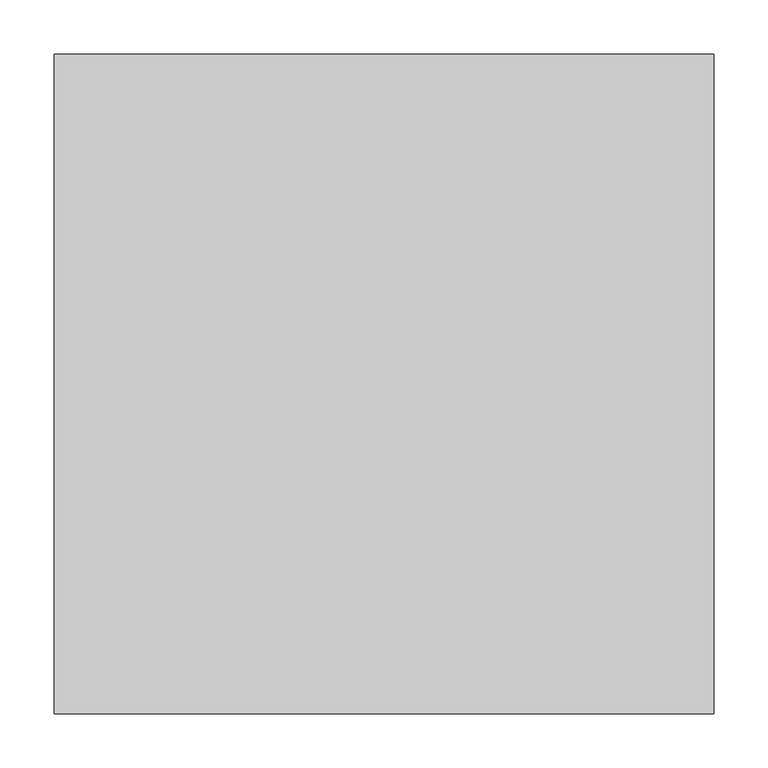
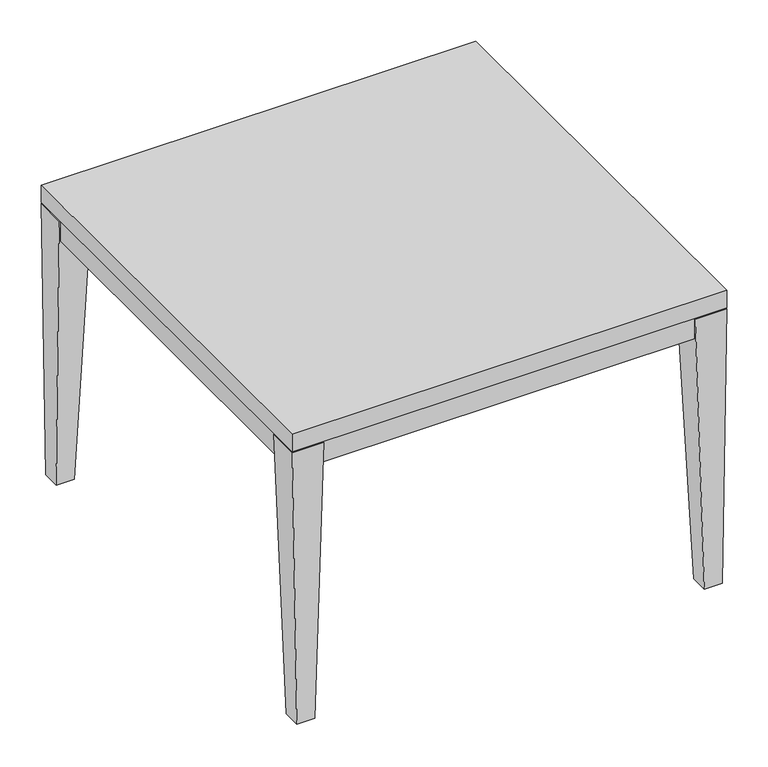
"""IFC4 building model written with IfcOpenShell, lengths in millimetres: furniture geometry, Coalesse_AM_Table_Ocassional_Passerelle : 24D x 24W x 17H."""

from ifc_helpers import new_model, si_unit, origin, place, context, project, spatial, faceted_brep, source, transform, mapped, element, save


def furniture_f0c5a1ee(model_context):
    return source(origin(), model_context, "Body", "Brep", [
        faceted_brep([(609.6, -609.6, 431.8), (609.6, -609.6, 406.4000242), (609.6, 0.0, 406.4000242), (609.6, 0.0, 431.8), (0.0, -609.6, 431.8), (0.0, 0.0, 431.8), (0.0, 0.0, 406.4000242), (0.0, -609.6, 406.4000242), (44.4501938, -44.4499758, 406.4000242), (1.5876938, -44.4499758, 406.4000242), (1.5876938, -565.1500242, 406.4000242), (44.4501938, -565.1500242, 406.4000242), (44.4501938, -608.0125, 406.4000242), (565.1498062, -608.0125, 406.4000242), (565.1498062, -565.1500242, 406.4000242), (608.0123062, -565.1500242, 406.4000242), (608.0123062, -44.4499758, 406.4000242), (565.1498062, -44.4499758, 406.4000242), (565.1498062, -1.5874758, 406.4000242), (44.4501938, -1.5874758, 406.4000242), (44.4501938, -44.4499758, 374.65), (44.4501938, -1.5874758, 374.65), (565.1498062, -1.5874758, 374.65), (565.1498062, -44.4499758, 374.65), (608.0123062, -44.4499758, 374.65), (608.0123062, -565.1500242, 374.65), (565.1498062, -565.1500242, 374.65), (565.1498062, -608.0125, 374.65), (44.4501938, -608.0125, 374.65), (44.4501938, -565.1500242, 374.65), (1.5876938, -565.1500242, 374.65), (1.5876938, -44.4499758, 374.65)], [[[0, 1, 2, 3]], [[4, 5, 6, 7]], [[1, 0, 4, 7]], [[2, 1, 7, 6], [8, 9, 10, 11, 12, 13, 14, 15, 16, 17, 18, 19]], [[3, 2, 6, 5]], [[0, 3, 5, 4]], [[20, 21, 22, 23, 24, 25, 26, 27, 28, 29, 30, 31]], [[20, 31, 9, 8]], [[31, 30, 10, 9]], [[30, 29, 11, 10]], [[29, 28, 12, 11]], [[28, 27, 13, 12]], [[27, 26, 14, 13]], [[26, 25, 15, 14]], [[25, 24, 16, 15]], [[24, 23, 17, 16]], [[23, 22, 18, 17]], [[22, 21, 19, 18]], [[21, 20, 8, 19]]]),
        faceted_brep([(603.2498062, -584.2, 0.0), (603.2498062, -609.6, 0.0), (577.8501938, -609.6, 0.0), (577.8501938, -584.2, 0.0), (609.6, -565.1500242, 404.8125121), (565.1498062, -565.1500242, 404.8125121), (565.1498062, -609.6, 404.8125121), (609.6, -609.6, 404.8125121)], [[[0, 1, 2, 3]], [[4, 5, 6, 7]], [[4, 7, 1, 0]], [[7, 6, 2, 1]], [[6, 5, 3, 2]], [[5, 4, 0, 3]]]),
        faceted_brep([(6.3501938, -584.2, 0.0), (31.7498062, -584.2, 0.0), (31.7498062, -609.6, 0.0), (6.3501938, -609.6, 0.0), (0.0, -565.1500242, 404.8125121), (0.0, -609.6, 404.8125121), (44.4501938, -609.6, 404.8125121), (44.4501938, -565.1500242, 404.8125121)], [[[0, 1, 2, 3]], [[4, 5, 6, 7]], [[4, 7, 1, 0]], [[7, 6, 2, 1]], [[6, 5, 3, 2]], [[5, 4, 0, 3]]]),
        faceted_brep([(603.2498062, -25.3999758, 0.0), (577.8501938, -25.3999758, 0.0), (577.8501938, 0.0, 0.0), (603.2498062, 0.0, 0.0), (609.6, -44.4499758, 404.8125121), (609.6, 0.0, 404.8125121), (565.1498062, 0.0, 404.8125121), (565.1498062, -44.4499758, 404.8125121)], [[[0, 1, 2, 3]], [[4, 5, 6, 7]], [[4, 7, 1, 0]], [[7, 6, 2, 1]], [[6, 5, 3, 2]], [[5, 4, 0, 3]]]),
        faceted_brep([(6.3501938, -25.3999758, 0.0), (6.3501938, 0.0, 0.0), (31.7498062, 0.0, 0.0), (31.7498062, -25.3999758, 0.0), (0.0, -44.4499758, 404.8125121), (44.4501938, -44.4499758, 404.8125121), (44.4501938, 0.0, 404.8125121), (0.0, 0.0, 404.8125121)], [[[0, 1, 2, 3]], [[4, 5, 6, 7]], [[4, 7, 1, 0]], [[7, 6, 2, 1]], [[6, 5, 3, 2]], [[5, 4, 0, 3]]]),
    ])


if __name__ == "__main__":
    model = new_model("IFC4")
    model_context = context("Model", 3, world=origin())
    ifc_project = project(units=[si_unit("LENGTHUNIT", "METRE", prefix="MILLI")], contexts=[model_context])
    site = spatial("IfcSite", under=ifc_project)
    building = spatial("IfcBuilding", under=site)
    placement = place(None, origin())
    furniture_shape = furniture_f0c5a1ee(model_context)
    element("IfcFurniture", 1, ObjectType="Coalesse_AM_Table_Ocassional_Passerelle : 24D x 24W x 17H", at=placement, inside=building, context=model_context, shape_type="MappedRepresentation", body=[
        mapped(furniture_shape, transform((0.0, 0.0, 0.0), x_axis=(1.0, 0.0, 0.0), y_axis=(0.0, 1.0, 0.0), z_axis=(0.0, 0.0, 1.0))),
    ])
    save(model, "model.ifc")
